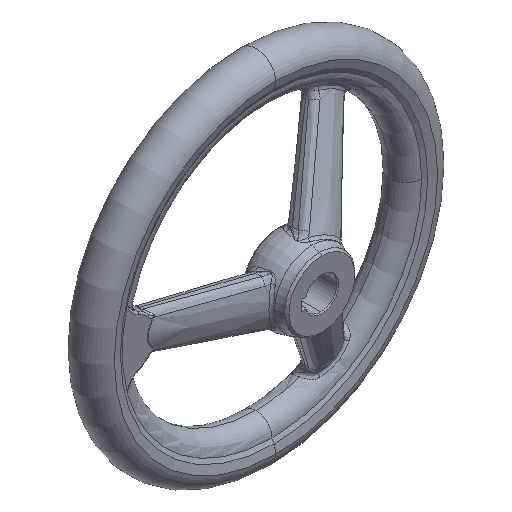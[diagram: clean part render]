
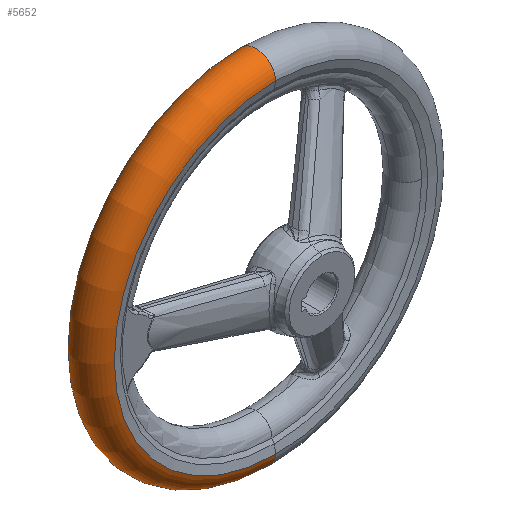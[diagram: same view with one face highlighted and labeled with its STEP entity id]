
A CAD part, isometric view. The second image highlights one B-rep face of the part: STEP entity #5652.
In plain terms, the highlighted toroidal (fillet/blend) face has major radius 79.944 mm and minor radius 10.056 mm.
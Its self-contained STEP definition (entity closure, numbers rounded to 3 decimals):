
#5366 = ORIENTED_EDGE ( 'NONE', *, *, #19055, .F. ) ;
#5374 = ORIENTED_EDGE ( 'NONE', *, *, #18765, .T. ) ;
#5418 = ORIENTED_EDGE ( 'NONE', *, *, #18748, .F. ) ;
#5424 = EDGE_LOOP ( 'NONE', ( #5418, #5647, #5374, #5366 ) ) ;
#5647 = ORIENTED_EDGE ( 'NONE', *, *, #19040, .T. ) ;
#5652 = ADVANCED_FACE ( 'NONE', ( #19682 ), #19681, .T. ) ;
#16894 = CARTESIAN_POINT ( 'NONE',  ( 0., 33., 79.944 ) ) ;
#16896 = DIRECTION ( 'NONE',  ( 0., 0., -1. ) ) ;
#16902 = CIRCLE ( 'NONE', #16904, 10.056 ) ;
#16904 = AXIS2_PLACEMENT_3D ( 'NONE', #16894, #16912, #16896 ) ;
#16912 = DIRECTION ( 'NONE',  ( 1., 0., 0. ) ) ;
#16918 = CARTESIAN_POINT ( 'NONE',  ( 0., 33., -79.944 ) ) ;
#16954 = DIRECTION ( 'NONE',  ( 0., 0., 1. ) ) ;
#16955 = DIRECTION ( 'NONE',  ( -1., 0., 0. ) ) ;
#16963 = CIRCLE ( 'NONE', #16971, 10.056 ) ;
#16971 = AXIS2_PLACEMENT_3D ( 'NONE', #16918, #16955, #16954 ) ;
#17731 = CARTESIAN_POINT ( 'NONE',  ( 0., 43., 0. ) ) ;
#17789 = DIRECTION ( 'NONE',  ( 0., 0., -1. ) ) ;
#17790 = DIRECTION ( 'NONE',  ( 0., -1., 0. ) ) ;
#17791 = AXIS2_PLACEMENT_3D ( 'NONE', #17731, #17790, #17789 ) ;
#17792 = CIRCLE ( 'NONE', #17791, 81. ) ;
#17801 = DIRECTION ( 'NONE',  ( 0., 0., -1. ) ) ;
#17802 = DIRECTION ( 'NONE',  ( 0., -1., 0. ) ) ;
#17809 = CIRCLE ( 'NONE', #17817, 81. ) ;
#17817 = AXIS2_PLACEMENT_3D ( 'NONE', #17820, #17802, #17801 ) ;
#17819 = CARTESIAN_POINT ( 'NONE',  ( 0., 43., 81. ) ) ;
#17820 = CARTESIAN_POINT ( 'NONE',  ( 0., 23., 0. ) ) ;
#17860 = CARTESIAN_POINT ( 'NONE',  ( 0., 23., -81. ) ) ;
#17861 = CARTESIAN_POINT ( 'NONE',  ( 0., 23., 81. ) ) ;
#17896 = CARTESIAN_POINT ( 'NONE',  ( 0., 43., -81. ) ) ;
#18748 = EDGE_CURVE ( 'NONE', #19051, #19087, #16902, .T. ) ;
#18765 = EDGE_CURVE ( 'NONE', #19100, #19086, #16963, .T. ) ;
#19040 = EDGE_CURVE ( 'NONE', #19051, #19100, #17792, .T. ) ;
#19051 = VERTEX_POINT ( 'NONE', #17819 ) ;
#19055 = EDGE_CURVE ( 'NONE', #19087, #19086, #17809, .T. ) ;
#19086 = VERTEX_POINT ( 'NONE', #17860 ) ;
#19087 = VERTEX_POINT ( 'NONE', #17861 ) ;
#19100 = VERTEX_POINT ( 'NONE', #17896 ) ;
#19681 = TOROIDAL_SURFACE ( 'NONE', #19691, 79.944, 10.056 ) ;
#19682 = FACE_OUTER_BOUND ( 'NONE', #5424, .T. ) ;
#19691 = AXIS2_PLACEMENT_3D ( 'NONE', #19726, #19730, #19729 ) ;
#19726 = CARTESIAN_POINT ( 'NONE',  ( 0., 33., 0. ) ) ;
#19729 = DIRECTION ( 'NONE',  ( 0., 0., -1. ) ) ;
#19730 = DIRECTION ( 'NONE',  ( 0., -1., 0. ) ) ;
